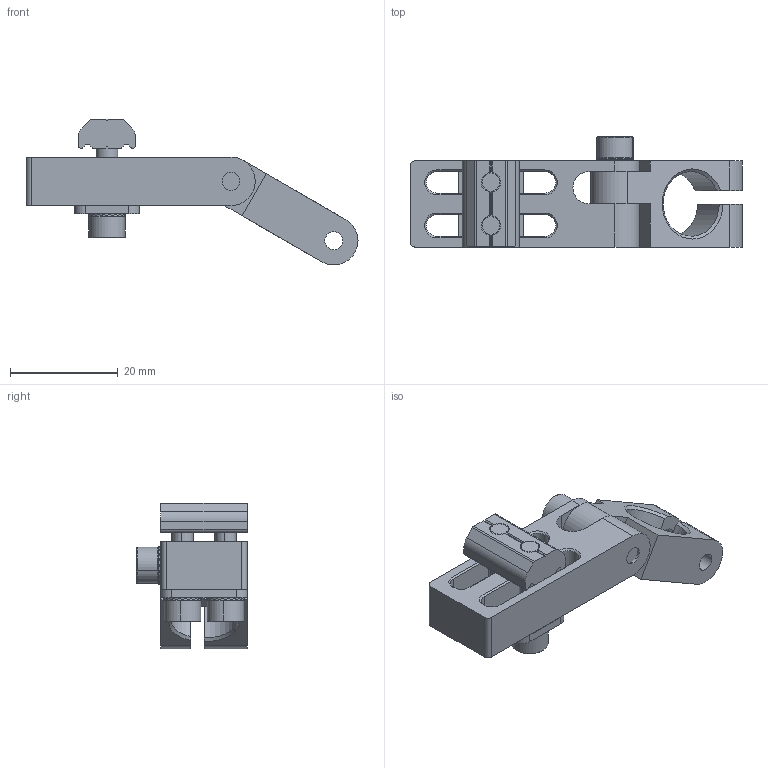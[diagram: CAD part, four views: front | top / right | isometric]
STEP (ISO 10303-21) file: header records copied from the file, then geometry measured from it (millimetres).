
FILE_DESCRIPTION (( 'STEP AP214' ), '1' );
FILE_NAME ('SMBE3-1220.STEP', '2019-11-05T05:18:47', ( '微软用户' ), ( '微软中国' ), 'SwSTEP 2.0', 'SolidWorks 2016', '' );
FILE_SCHEMA (( 'AUTOMOTIVE_DESIGN' ));
Length unit declared in the file: millimetre
Products named in the file (8): SMBE3-1220-1; SMBE3-1220; PTC-M4L16; PTC-M4L18; PTS-M4; PTN-M4P8; PTD-M4P8; SMBE3-1220-2
Assembly tree (10 placements, depth 2):
  SMBE3-1220
    SMBE3-1220-1
    SMBE3-1220-2
    PTD-M4P8
    PTN-M4P8
    PTS-M4  x3
    PTC-M4L18  x2
    PTC-M4L16
Bounding box: 61.55 x 20.45 x 27.05 mm (x, y, z)
Volume: 7636 mm3; surface area: 7329.1 mm2
Topology: 10 solids, 10 shells, 691 faces, 1986 edges, 1311 vertices
Faces by surface type: plane 573, cylinder 81, cone 37
Entity records: 11591 total; most frequent: CARTESIAN_POINT 2143, DIRECTION 1963, ORIENTED_EDGE 1920, EDGE_CURVE 960, AXIS2_PLACEMENT_3D 681, VERTEX_POINT 629, LINE 601, VECTOR 601
